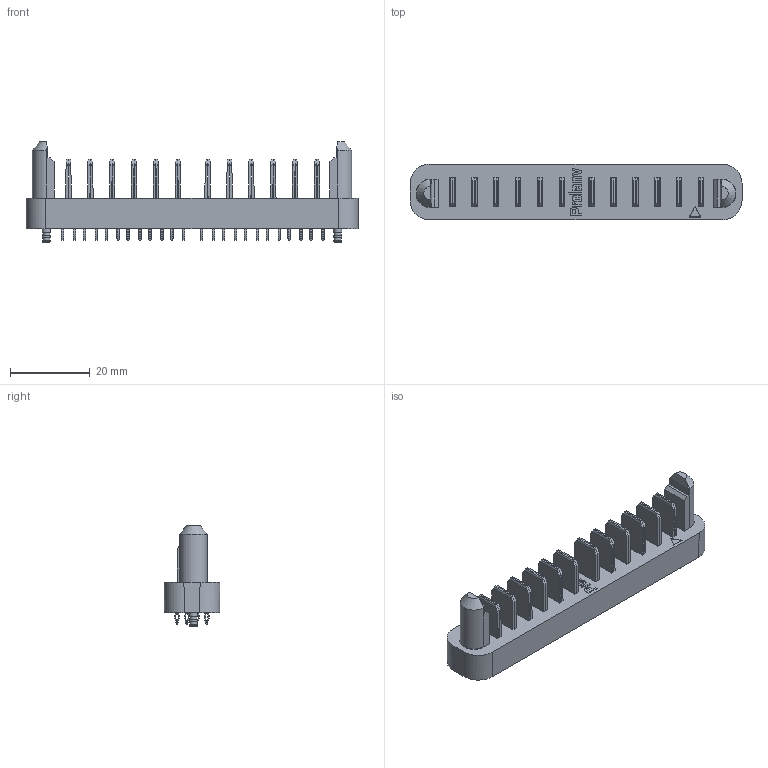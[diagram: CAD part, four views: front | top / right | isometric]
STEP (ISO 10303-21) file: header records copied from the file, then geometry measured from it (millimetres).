
FILE_DESCRIPTION(/* description */ (''),/* implementation_level */ '2;1');
FILE_NAME(/* name */ 'PDC2920F0002-石头档.stp',/* time_stamp */ '2025-01-03T16:22:05+08:00',/* author */ (''),/* organization */ (''),/* preprocessor_version */ 'ST-DEVELOPER v16.7',/* originating_system */ 'SIEMENS PLM Software NX 1946',/* authorisation */ '');
FILE_SCHEMA (('AUTOMOTIVE_DESIGN { 1 0 10303 214 3 1 1 1 }'));
Length unit declared in the file: millimetre
Products named in the file (1): _model1
Bounding box: 83.5 x 14.05 x 25.38 mm (x, y, z)
Volume: 10389.8 mm3; surface area: 9733.3 mm2
Topology: 1 solids, 1 shells, 5486 faces, 13908 edges, 8462 vertices
Faces by surface type: cylinder 2256, plane 1653, torus 1538, extrusion 31, cone 6, bspline 2
Full cylindrical faces by diameter (mm): 1.8 x4, 2 x6
Entity records: 202375 total; most frequent: DIRECTION 31529, CARTESIAN_POINT 30387, ORIENTED_EDGE 27784, EDGE_CURVE 13892, AXIS2_PLACEMENT_3D 12670, VERTEX_POINT 8458, CIRCLE 6436, VECTOR 6189
